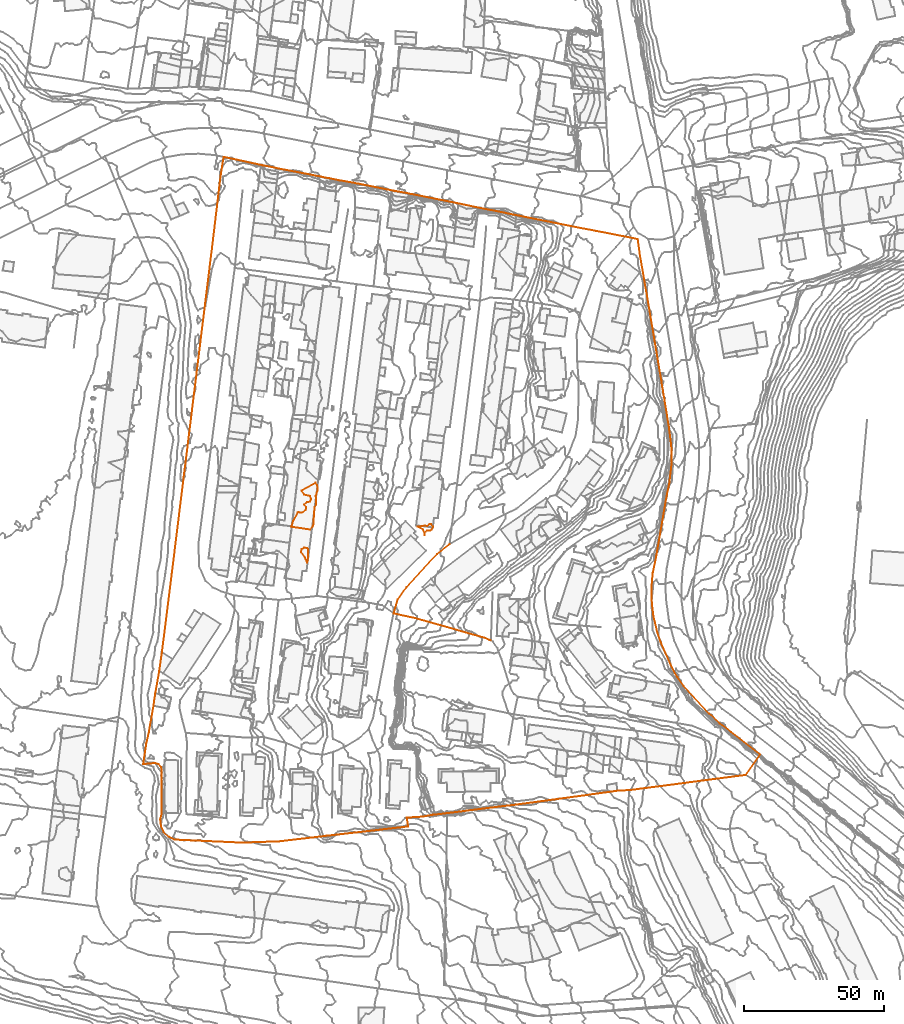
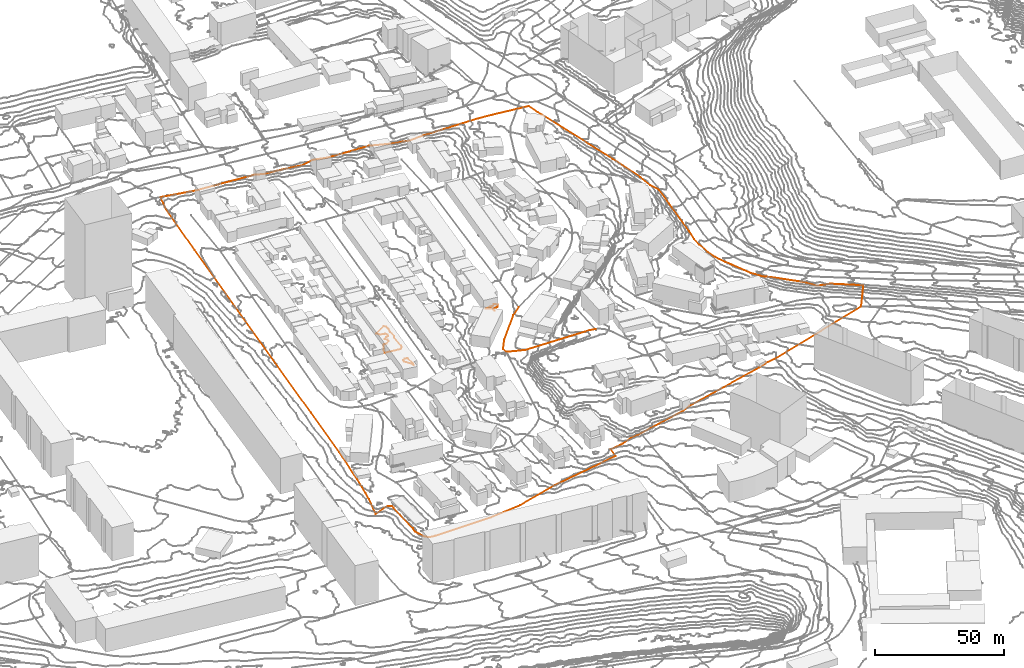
# Not in any storey, part 246 of 419: 6 proxies.
"""IFC2X3 model written with IfcOpenShell, lengths in metres."""

from ifc_helpers import new_model, entity, si_unit, frame, origin_with_axes, place, context, subcontext, project, element, save


model = new_model("IFC2X3")

# Units and contexts
model_context = context("Model", 3, precision=1e-05, world=origin_with_axes())
body_context = subcontext(model_context, "Body", "Model", "MODEL_VIEW")
ifc_project = project(units=[si_unit("AREAUNIT", "SQUARE_METRE"), si_unit("LENGTHUNIT", "METRE")], contexts=[model_context])

# Proxies
proxy_1_placement = place(None, frame((543.9920204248, 687.8976909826, 44.4), z_axis=(0.0, 0.0, 1.0), x_axis=(1.0, 0.0, 0.0)))
element("IfcBuildingElementProxy", 1, at=proxy_1_placement, Name="Route 72", ObjectType="NOTDEFINED", context=body_context, shape_type="GeometricCurveSet", body=[
    entity("IfcGeometricCurveSet", [entity("IfcPolyline", [entity("IfcCartesianPoint", [0.0, 0.0, 0.0]), entity("IfcCartesianPoint", [1.5, 4.9000000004, -2.1]), entity("IfcCartesianPoint", [4.7, 9.5, -1.6]), entity("IfcCartesianPoint", [15.6, 21.2999999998, -0.9]), entity("IfcCartesianPoint", [20.1, 24.7999999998, -0.9])])]),
])
proxy_2_placement = place(None, frame((543.9920204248, 687.8976909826, 44.4), z_axis=(0.0, 0.0, 1.0), x_axis=(1.0, 0.0, 0.0)))
element("IfcBuildingElementProxy", 2, at=proxy_2_placement, Name="Route 275", ObjectType="NOTDEFINED", context=body_context, shape_type="GeometricCurveSet", body=[
    entity("IfcGeometricCurveSet", [entity("IfcPolyline", [entity("IfcCartesianPoint", [34.9, -9.7000000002, 4.5]), entity("IfcCartesianPoint", [34.4, -9.5, 4.5]), entity("IfcCartesianPoint", [32.5, -8.7000000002, 4.2]), entity("IfcCartesianPoint", [7.7, -1.7000000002, -0.8]), entity("IfcCartesianPoint", [0.0, 0.0, 0.0])])]),
])
proxy_3_placement = place(None, frame((454.4320204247, 633.9576909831, 31.4998877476), z_axis=(0.0, 0.0, 1.0), x_axis=(1.0, 0.0, 0.0)))
element("IfcBuildingElementProxy", 3, at=proxy_3_placement, Name="Cadastre 381", ObjectType="NOTDEFINED", context=body_context, shape_type="GeometricCurveSet", body=[
    entity("IfcGeometricCurveSet", [entity("IfcPolyline", [entity("IfcCartesianPoint", [42.92, 214.2699999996, 8.541799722]), entity("IfcCartesianPoint", [49.4, 212.9699999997, 9.1961492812]), entity("IfcCartesianPoint", [66.5900000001, 209.6499999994, 10.51727915]), entity("IfcCartesianPoint", [70.29, 208.9299999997, 10.0260428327]), entity("IfcCartesianPoint", [77.15, 207.6899999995, 10.3631364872]), entity("IfcCartesianPoint", [85.62, 205.9699999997, 10.5804119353]), entity("IfcCartesianPoint", [89.9700000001, 205.1499999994, 12.1571170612]), entity("IfcCartesianPoint", [95.9500000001, 204.0299999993, 11.7570105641]), entity("IfcCartesianPoint", [112.87, 200.6399999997, 13.5772322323]), entity("IfcCartesianPoint", [120.02, 199.1299999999, 12.7899435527]), entity("IfcCartesianPoint", [128.9, 197.3999999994, 12.3112323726]), entity("IfcCartesianPoint", [134.52, 196.2299999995, 13.5311576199]), entity("IfcCartesianPoint", [156.6100000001, 191.8299999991, 16.6019927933]), entity("IfcCartesianPoint", [162.16, 190.8099999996, 16.9197123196]), entity("IfcCartesianPoint", [177.01, 187.8799999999, 17.6741915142]), entity("IfcCartesianPoint", [177.8100000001, 182.0499999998, 17.9793980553]), entity("IfcCartesianPoint", [178.2100000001, 179.8199999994, 18.1694612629]), entity("IfcCartesianPoint", [180.53, 166.3699999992, 18.876548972]), entity("IfcCartesianPoint", [185.4700000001, 137.1299999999, 20.4410564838]), entity("IfcCartesianPoint", [188.16, 120.6199999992, 20.9377132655]), entity("IfcCartesianPoint", [189.01, 114.0199999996, 20.6780531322]), entity("IfcCartesianPoint", [189.0800000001, 107.3799999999, 22.516703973]), entity("IfcCartesianPoint", [188.3300000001, 100.7799999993, 22.6896306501]), entity("IfcCartesianPoint", [187.4300000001, 96.54, 23.0293916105]), entity("IfcCartesianPoint", [183.63, 74.4899999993, 24.8808532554]), entity("IfcCartesianPoint", [182.3600000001, 68.3399999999, 25.253312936]), entity("IfcCartesianPoint", [181.9400000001, 63.8199999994, 25.5002363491]), entity("IfcCartesianPoint", [182.05, 57.5299999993, 25.7699229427]), entity("IfcCartesianPoint", [182.6100000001, 53.0199999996, 26.0009726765]), entity("IfcCartesianPoint", [184.0700000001, 46.9199999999, 26.6313992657]), entity("IfcCartesianPoint", [185.29, 43.4099999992, 26.9597856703]), entity("IfcCartesianPoint", [188.78, 35.5599999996, 26.7498250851]), entity("IfcCartesianPoint", [191.1800000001, 31.0599999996, 27.1204726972]), entity("IfcCartesianPoint", [193.4600000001, 27.8499999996, 27.7698333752]), entity("IfcCartesianPoint", [202.4900000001, 18.1099999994, 28.2490908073]), entity("IfcCartesianPoint", [206.3200000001, 14.5799999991, 27.2537131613]), entity("IfcCartesianPoint", [210.4600000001, 11.4299999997, 28.6832823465]), entity("IfcCartesianPoint", [220.75, 3.3899999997, 29.228711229]), entity("IfcCartesianPoint", [215.5700000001, -3.8800000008, 25.3885877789]), entity("IfcCartesianPoint", [174.0900000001, -9.3100000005, 18.552763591]), entity("IfcCartesianPoint", [169.78, -9.5100000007, 18.1023832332]), entity("IfcCartesianPoint", [166.26, -10.0300000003, 17.3780819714]), entity("IfcCartesianPoint", [132.41, -14.6500000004, 13.8997112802]), entity("IfcCartesianPoint", [129.02, -15.0100000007, 12.7919525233]), entity("IfcCartesianPoint", [108.8300000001, -17.5500000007, 10.8340656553]), entity("IfcCartesianPoint", [103.78, -18.1400000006, 10.7035888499]), entity("IfcCartesianPoint", [99.92, -18.8000000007, 9.8181435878]), entity("IfcCartesianPoint", [99.88, -18.8000000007, 9.8208156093]), entity("IfcCartesianPoint", [97.3100000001, -18.9700000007, 9.4949575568]), entity("IfcCartesianPoint", [94.3500000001, -19.1800000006, 9.3082115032]), entity("IfcCartesianPoint", [94.8200000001, -22.3200000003, 7.9318637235]), entity("IfcCartesianPoint", [65.67, -25.6600000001, 6.395602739]), entity("IfcCartesianPoint", [48.7000000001, -27.6500000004, 3.8832956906]), entity("IfcCartesianPoint", [35.3, -28.1200000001, 3.0956722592]), entity("IfcCartesianPoint", [11.27, -27.0300000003, 2.1348685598]), entity("IfcCartesianPoint", [11.2300000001, -27.0200000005, 2.14004362]), entity("IfcCartesianPoint", [9.05, -25.9700000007, 1.5357870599]), entity("IfcCartesianPoint", [7.38, -24.29, 1.5992489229]), entity("IfcCartesianPoint", [6.37, -22.1500000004, 2.0228984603]), entity("IfcCartesianPoint", [6.1100000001, -19.7800000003, 1.5360019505]), entity("IfcCartesianPoint", [6.62, -17.5600000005, 1.3755111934]), entity("IfcCartesianPoint", [6.67, -17.4000000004, 1.4251395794]), entity("IfcCartesianPoint", [6.65, -2.4700000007, 2.0431601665]), entity("IfcCartesianPoint", [6.66, -2.3800000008, 2.0796113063]), entity("IfcCartesianPoint", [6.4300000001, -1.0200000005, 2.1638257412]), entity("IfcCartesianPoint", [5.5, 0.0, 1.8967761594]), entity("IfcCartesianPoint", [4.2400000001, 0.3399999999, 1.4379508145]), entity("IfcCartesianPoint", [4.0800000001, 0.3599999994, 1.3676629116]), entity("IfcCartesianPoint", [0.0, 0.0, 0.0]), entity("IfcCartesianPoint", [1.1100000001, 7.3199999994, 2.3731707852]), entity("IfcCartesianPoint", [2.03, 11.4199999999, 2.4033331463]), entity("IfcCartesianPoint", [3.66, 20.8099999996, 2.7706633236]), entity("IfcCartesianPoint", [4.3100000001, 25.29, 2.6226129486]), entity("IfcCartesianPoint", [5.75, 33.2999999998, 2.6101859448]), entity("IfcCartesianPoint", [6.6900000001, 40.0, 2.8044729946]), entity("IfcCartesianPoint", [10.2200000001, 68.0099999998, 3.2106120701]), entity("IfcCartesianPoint", [24.42, 182.9899999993, 5.6488509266]), entity("IfcCartesianPoint", [27.8, 211.25, 6.8856556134]), entity("IfcCartesianPoint", [28.78, 217.29, 8.5770630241]), entity("IfcCartesianPoint", [42.92, 214.2699999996, 8.541799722])])]),
])
proxy_4_placement = place(None, frame((507.4253113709, 718.8976909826, 38.0), z_axis=(0.0, 0.0, 1.0), x_axis=(1.0, 0.0, 0.0)))
element("IfcBuildingElementProxy", 4, at=proxy_4_placement, Name="Contour 38.0 m", ObjectType="NOTDEFINED", context=body_context, shape_type="GeometricCurveSet", body=[
    entity("IfcGeometricCurveSet", [entity("IfcPolyline", [entity("IfcCartesianPoint", [6.6667161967, -1.0, 0.0]), entity("IfcCartesianPoint", [0.0, 0.0, 0.0]), entity("IfcCartesianPoint", [0.6666840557, 2.0, 0.0]), entity("IfcCartesianPoint", [2.3334181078, 5.0, 0.0]), entity("IfcCartesianPoint", [2.6667090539, 5.1999694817, 0.0]), entity("IfcCartesianPoint", [3.6667090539, 5.000033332, 0.0]), entity("IfcCartesianPoint", [5.1666590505, 6.0, 0.0]), entity("IfcCartesianPoint", [5.3334181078, 7.0, 0.0]), entity("IfcCartesianPoint", [4.6666757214, 8.0, 0.0]), entity("IfcCartesianPoint", [5.6667090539, 8.8000305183, 0.0]), entity("IfcCartesianPoint", [6.6666090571, 9.0, 0.0]), entity("IfcCartesianPoint", [7.1666590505, 10.0, 0.0]), entity("IfcCartesianPoint", [6.6666090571, 11.0, 0.0]), entity("IfcCartesianPoint", [4.6667090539, 11.4999499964, 0.0]), entity("IfcCartesianPoint", [3.6666757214, 13.0, 0.0]), entity("IfcCartesianPoint", [8.6667090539, 15.7500238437, 0.0]), entity("IfcCartesianPoint", [9.2666937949, 15.0, 0.0]), entity("IfcCartesianPoint", [9.3667166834, 14.0, 0.0]), entity("IfcCartesianPoint", [9.3590122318, 13.0, 0.0]), entity("IfcCartesianPoint", [8.7916911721, 11.0, 0.0]), entity("IfcCartesianPoint", [8.9020058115, 8.0, 0.0]), entity("IfcCartesianPoint", [8.3333757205, 7.0, 0.0]), entity("IfcCartesianPoint", [7.9167042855, 1.0, 0.0]), entity("IfcCartesianPoint", [7.6667181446, 0.0, 0.0]), entity("IfcCartesianPoint", [6.6667161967, -1.0, 0.0])])]),
])
proxy_5_placement = place(None, frame((552.6920051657, 718.8976909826, 43.0), z_axis=(0.0, 0.0, 1.0), x_axis=(1.0, 0.0, 0.0)))
element("IfcBuildingElementProxy", 5, at=proxy_5_placement, Name="Contour 43.0 m", ObjectType="NOTDEFINED", context=body_context, shape_type="GeometricCurveSet", body=[
    entity("IfcGeometricCurveSet", [entity("IfcPolyline", [entity("IfcCartesianPoint", [2.4000402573, -3.0, 0.0]), entity("IfcCartesianPoint", [2.3999985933, -2.0, 0.0]), entity("IfcCartesianPoint", [1.8999902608, -1.0, 0.0]), entity("IfcCartesianPoint", [0.0, 0.0, 0.0]), entity("IfcCartesianPoint", [2.400015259, 0.4285714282, 0.0]), entity("IfcCartesianPoint", [3.400015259, 0.2222269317, 0.0]), entity("IfcCartesianPoint", [4.2750331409, 1.0, 0.0]), entity("IfcCartesianPoint", [4.7333062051, 1.0, 0.0]), entity("IfcCartesianPoint", [5.5428490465, 0.0, 0.0]), entity("IfcCartesianPoint", [4.9714594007, -1.0, 0.0]), entity("IfcCartesianPoint", [4.400015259, -1.3636426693, 0.0]), entity("IfcCartesianPoint", [3.400015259, -1.2999923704, 0.0]), entity("IfcCartesianPoint", [2.4000295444, -2.0, 0.0]), entity("IfcCartesianPoint", [2.4000402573, -3.0, 0.0])])]),
])
proxy_6_placement = place(None, frame((510.9253749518, 709.8976909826, 38.0), z_axis=(0.0, 0.0, 1.0), x_axis=(1.0, 0.0, 0.0)))
element("IfcBuildingElementProxy", 6, at=proxy_6_placement, Name="Contour 38.0 m", ObjectType="NOTDEFINED", context=body_context, shape_type="GeometricCurveSet", body=[
    entity("IfcGeometricCurveSet", [entity("IfcPolyline", [entity("IfcCartesianPoint", [2.4166407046, -3.0, 0.0]), entity("IfcCartesianPoint", [2.166645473, -3.8333545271, 0.0]), entity("IfcCartesianPoint", [1.4393601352, -2.0, 0.0]), entity("IfcCartesianPoint", [0.0, 0.0, 0.0]), entity("IfcCartesianPoint", [0.166645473, 1.000099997, 0.0]), entity("IfcCartesianPoint", [1.166645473, 1.5000249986, 0.0]), entity("IfcCartesianPoint", [2.166645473, 1.4000000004, 0.0]), entity("IfcCartesianPoint", [2.4999788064, 1.0, 0.0]), entity("IfcCartesianPoint", [2.4166407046, -3.0, 0.0])])]),
])

save(model, "model.ifc")
